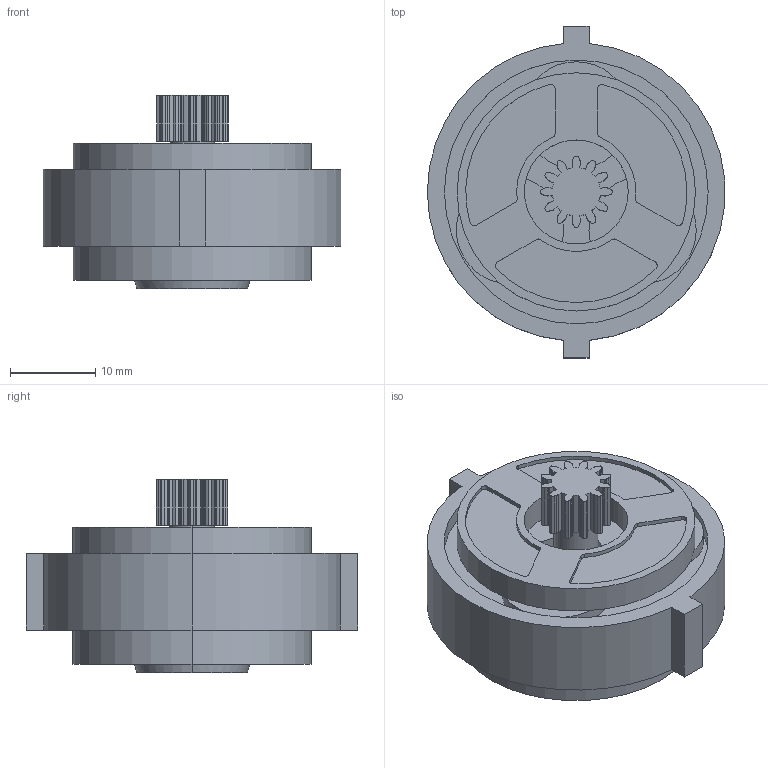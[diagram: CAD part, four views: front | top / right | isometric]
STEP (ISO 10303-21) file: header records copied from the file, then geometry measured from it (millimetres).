
FILE_DESCRIPTION (( 'STEP AP203' ), '1' );
FILE_NAME ('LGU35-5SYS.step', '2021-07-23T02:23:51', ( '' ), ( '' ), 'SwSTEP 2.0', 'SolidWorks 2021', '' );
FILE_SCHEMA (( 'CONFIG_CONTROL_DESIGN' ));
Length unit declared in the file: millimetre
Products named in the file (1): LGU35-5SYS
Bounding box: 34.93 x 39 x 22.7 mm (x, y, z)
Volume: 11200.8 mm3; surface area: 7240.9 mm2
Topology: 1 solids, 1 shells, 411 faces, 1173 edges, 782 vertices
Faces by surface type: cylinder 314, plane 89, bspline 6, cone 2
Entity records: 13956 total; most frequent: DIRECTION 2599, CARTESIAN_POINT 2565, ORIENTED_EDGE 2346, EDGE_CURVE 1173, AXIS2_PLACEMENT_3D 1044, VERTEX_POINT 782, CIRCLE 638, VECTOR 511
